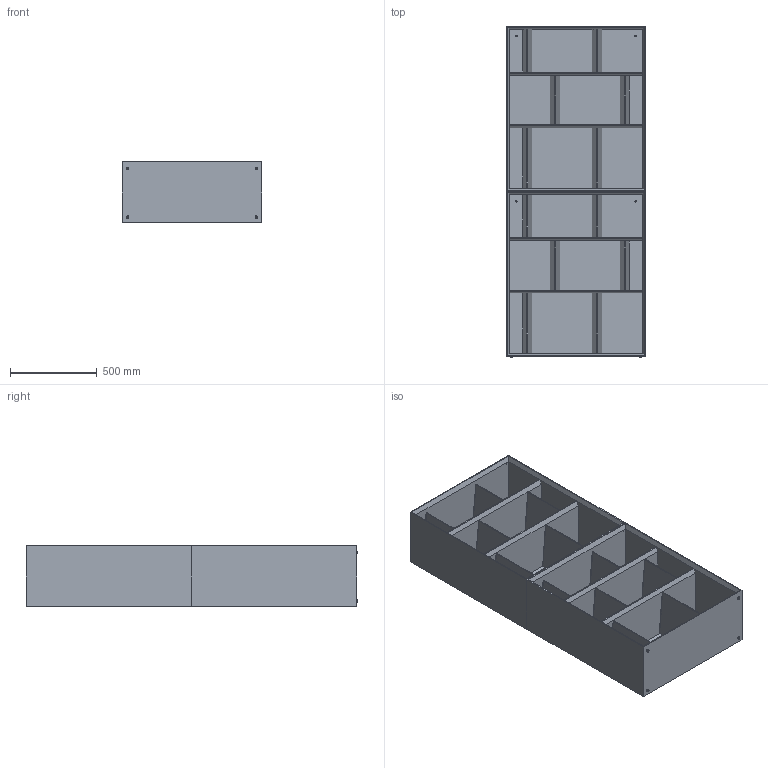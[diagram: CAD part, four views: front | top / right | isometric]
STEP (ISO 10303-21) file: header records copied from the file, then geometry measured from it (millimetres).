
FILE_DESCRIPTION (( 'STEP AP203' ), '1' );
FILE_NAME ('BL12S_Bendy Ax2_80x35x190h.STEP', '2024-08-06T08:29:32', ( '' ), ( '' ), 'SwSTEP 2.0', 'SolidWorks 2022', '' );
FILE_SCHEMA (( 'CONFIG_CONTROL_DESIGN' ));
Length unit declared in the file: millimetre
Products named in the file (7): BL12S_Bendy Ax2_80x35x190h; BEA00000-00-ASSIEME bendy 80x95_DEFAULT; BED000001-00-TRIANGOLO DIVISORIO_H.292; BED000001-00-TRIANGOLO DIVISORIO_H.356; BEx00000-01-BENDY Struttura tutte le dimensioni_bendy A 80x95cm<A macchina>; BED000001-00-TRIANGOLO DIVISORIO_H.256; piedino M5
Assembly tree (13 placements, depth 3):
  BL12S_Bendy Ax2_80x35x190h
    BEA00000-00-ASSIEME bendy 80x95_DEFAULT  x2
      BEx00000-01-BENDY Struttura tutte le dimensioni_bendy A 80x95cm<A macchina>
      BED000001-00-TRIANGOLO DIVISORIO_H.356
      BED000001-00-TRIANGOLO DIVISORIO_H.292
      BED000001-00-TRIANGOLO DIVISORIO_H.256
    piedino M5  x4
Bounding box: 800 x 1907 x 350 mm (x, y, z)
Volume: 74420365 mm3; surface area: 14191030.6 mm2
Topology: 34 solids, 34 shells, 744 faces, 1764 edges, 1084 vertices
Faces by surface type: plane 456, cylinder 232, cone 40, torus 16
Entity records: 9753 total; most frequent: DIRECTION 1584, CARTESIAN_POINT 1511, ORIENTED_EDGE 1460, EDGE_CURVE 730, AXIS2_PLACEMENT_3D 531, LINE 522, VECTOR 522, VERTEX_POINT 458
